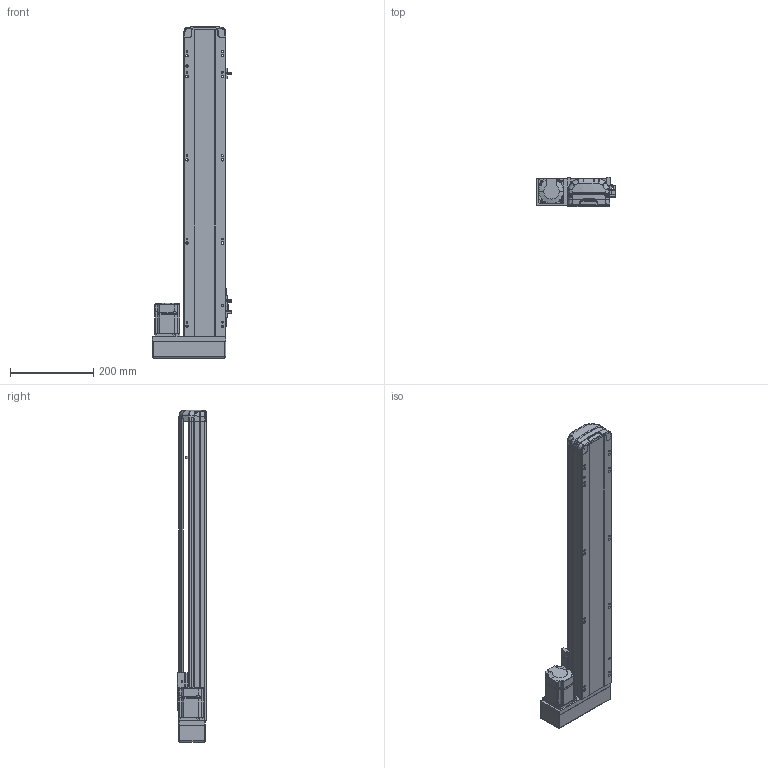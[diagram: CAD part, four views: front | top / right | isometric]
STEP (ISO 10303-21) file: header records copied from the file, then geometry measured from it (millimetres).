
FILE_DESCRIPTION (( 'STEP AP214' ), '1' );
FILE_NAME ('RTH10-XX-550-L-M20-C4.STEP', '2025-10-25T03:47:00', ( 'Microsoft' ), ( 'Microsoft' ), 'SwSTEP 2.0', 'SolidWorks 2018', '' );
FILE_SCHEMA (( 'AUTOMOTIVE_DESIGN' ));
Length unit declared in the file: millimetre
Products named in the file (10): N_RTH12-M-011P-臏倰第菁釱^RTH10-XX-XX-L-M20-C4; N_RTH12-L-008萇儂啣^RTH10-XX-XX-L-M20-C4; N_RTH13-L-012覜茼え俋离^RTH10-XX-XX-L-M20-C4; N_OMRON EE-SX672 传感器^RTH10-XX-XX-L-M20-C4; N_RTH12-GY-001P^RTH10-XX-XX-L-M20-C4; N_RTH12-GY-004-賑釱^RTH10-XX-XX-L-M20-C4; RTH10-XX-550-L-M20-C4; N_RTH12-L-018-裔赽^RTH10-XX-XX-L-M20-C4; N_RTH12-M-007P-奻裔^RTH10-XX-XX-L-M20-C4; N_200W-1^RTH10-XX-XX-L-M20-C4
Assembly tree (11 placements, depth 2):
  RTH10-XX-550-L-M20-C4
    N_RTH12-M-011P-臏倰第菁釱^RTH10-XX-XX-L-M20-C4
    N_RTH13-L-012覜茼え俋离^RTH10-XX-XX-L-M20-C4
    N_OMRON EE-SX672 传感器^RTH10-XX-XX-L-M20-C4  x3
    N_200W-1^RTH10-XX-XX-L-M20-C4
    N_RTH12-M-007P-奻裔^RTH10-XX-XX-L-M20-C4
    N_RTH12-L-008萇儂啣^RTH10-XX-XX-L-M20-C4
    N_RTH12-L-018-裔赽^RTH10-XX-XX-L-M20-C4
    N_RTH12-GY-004-賑釱^RTH10-XX-XX-L-M20-C4
    N_RTH12-GY-001P^RTH10-XX-XX-L-M20-C4
Bounding box: 190 x 70 x 797.14 mm (x, y, z)
Volume: 3694862.7 mm3; surface area: 565230.4 mm2
Topology: 10 solids, 12 shells, 1976 faces, 5509 edges, 3617 vertices
Faces by surface type: plane 983, cylinder 486, bspline 472, cone 29, sphere 4, torus 2
Entity records: 59499 total; most frequent: CARTESIAN_POINT 23365, ORIENTED_EDGE 8090, DIRECTION 6263, EDGE_CURVE 4051, VERTEX_POINT 2661, LINE 2169, VECTOR 2169, AXIS2_PLACEMENT_3D 2047
